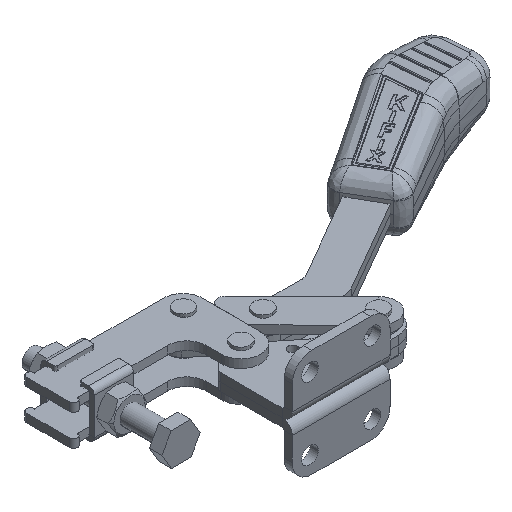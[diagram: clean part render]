
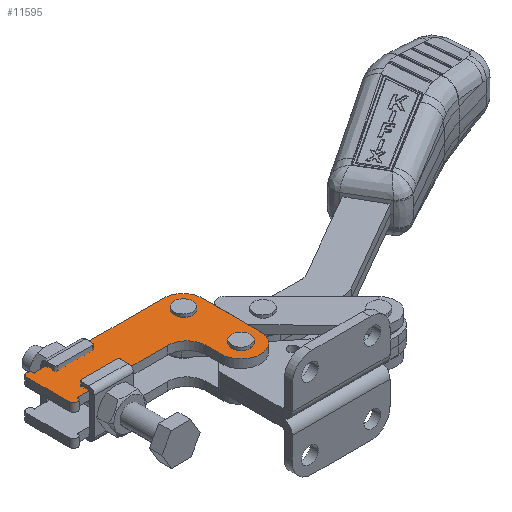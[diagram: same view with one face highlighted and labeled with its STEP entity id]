
A CAD part, isometric view. The second image highlights one B-rep face of the part: STEP entity #11595.
In plain terms, the highlighted planar face has unit normal (0, 0, 1) as drawn and (0, 0, -1) by its records, which use the part's own axes.
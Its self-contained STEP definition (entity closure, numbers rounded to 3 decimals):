
#431 = FACE_BOUND ( 'NONE', #6341, .T. ) ;
#475 = ORIENTED_EDGE ( 'NONE', *, *, #20551, .T. ) ;
#478 = VERTEX_POINT ( 'NONE', #8190 ) ;
#522 = VECTOR ( 'NONE', #9988, 1000. ) ;
#558 = VERTEX_POINT ( 'NONE', #4759 ) ;
#735 = EDGE_CURVE ( 'NONE', #7137, #9043, #4503, .T. ) ;
#763 = VERTEX_POINT ( 'NONE', #12551 ) ;
#1210 = EDGE_CURVE ( 'NONE', #7646, #20691, #19249, .T. ) ;
#1384 = DIRECTION ( 'NONE',  ( -1., 0., 0. ) ) ;
#1479 = DIRECTION ( 'NONE',  ( 0., -1., 0. ) ) ;
#1494 = VECTOR ( 'NONE', #1479, 1000. ) ;
#1611 = ORIENTED_EDGE ( 'NONE', *, *, #19924, .F. ) ;
#1957 = DIRECTION ( 'NONE',  ( 0., 0., 1. ) ) ;
#1998 = DIRECTION ( 'NONE',  ( 0., 0., -1. ) ) ;
#2265 = ORIENTED_EDGE ( 'NONE', *, *, #22525, .F. ) ;
#2313 = ORIENTED_EDGE ( 'NONE', *, *, #7842, .F. ) ;
#2348 = EDGE_CURVE ( 'NONE', #763, #7137, #14112, .T. ) ;
#2433 = LINE ( 'NONE', #19820, #7301 ) ;
#2842 = CARTESIAN_POINT ( 'NONE',  ( 70., -1., -4.25 ) ) ;
#2963 = EDGE_CURVE ( 'NONE', #12311, #12328, #2433, .T. ) ;
#3055 = CARTESIAN_POINT ( 'NONE',  ( 2., 11., -4.25 ) ) ;
#3484 = ORIENTED_EDGE ( 'NONE', *, *, #9494, .T. ) ;
#3581 = CARTESIAN_POINT ( 'NONE',  ( 0., -11., -4.25 ) ) ;
#3676 = CARTESIAN_POINT ( 'NONE',  ( 70., -0.7, -4.25 ) ) ;
#3915 = CARTESIAN_POINT ( 'NONE',  ( 70., 28.7, -4.25 ) ) ;
#3948 = AXIS2_PLACEMENT_3D ( 'NONE', #3055, #15740, #4880 ) ;
#4058 = LINE ( 'NONE', #21814, #13153 ) ;
#4069 = CARTESIAN_POINT ( 'NONE',  ( 66., 28.7, -4.25 ) ) ;
#4420 = CIRCLE ( 'NONE', #3948, 2. ) ;
#4503 = LINE ( 'NONE', #16007, #9363 ) ;
#4678 = DIRECTION ( 'NONE',  ( 1., 0., 0. ) ) ;
#4759 = CARTESIAN_POINT ( 'NONE',  ( 74., 28.7, -4.25 ) ) ;
#4836 = EDGE_CURVE ( 'NONE', #20691, #16788, #12933, .T. ) ;
#4873 = AXIS2_PLACEMENT_3D ( 'NONE', #3676, #16361, #5528 ) ;
#4880 = DIRECTION ( 'NONE',  ( -1., 0., 0. ) ) ;
#5218 = ORIENTED_EDGE ( 'NONE', *, *, #15078, .T. ) ;
#5504 = AXIS2_PLACEMENT_3D ( 'NONE', #8599, #21270, #10424 ) ;
#5528 = DIRECTION ( 'NONE',  ( 1., 0., 0. ) ) ;
#5755 = DIRECTION ( 'NONE',  ( 1., 0., 0. ) ) ;
#5815 = CARTESIAN_POINT ( 'NONE',  ( 66., -0.7, -4.25 ) ) ;
#6341 = EDGE_LOOP ( 'NONE', ( #475, #3484 ) ) ;
#6762 = EDGE_CURVE ( 'NONE', #14186, #12311, #12585, .T. ) ;
#7137 = VERTEX_POINT ( 'NONE', #17054 ) ;
#7281 = AXIS2_PLACEMENT_3D ( 'NONE', #2842, #15535, #4678 ) ;
#7301 = VECTOR ( 'NONE', #23453, 1000. ) ;
#7487 = DIRECTION ( 'NONE',  ( 0., 0., 1. ) ) ;
#7646 = VERTEX_POINT ( 'NONE', #19440 ) ;
#7842 = EDGE_CURVE ( 'NONE', #16788, #763, #4058, .T. ) ;
#8032 = AXIS2_PLACEMENT_3D ( 'NONE', #18325, #7487, #20160 ) ;
#8190 = CARTESIAN_POINT ( 'NONE',  ( 60., 28.7, -4.25 ) ) ;
#8205 = CARTESIAN_POINT ( 'NONE',  ( 74., -0.7, -4.25 ) ) ;
#8396 = ORIENTED_EDGE ( 'NONE', *, *, #735, .F. ) ;
#8407 = CIRCLE ( 'NONE', #19953, 10. ) ;
#8475 = AXIS2_PLACEMENT_3D ( 'NONE', #9553, #22207, #11371 ) ;
#8533 = ORIENTED_EDGE ( 'NONE', *, *, #17520, .T. ) ;
#8599 = CARTESIAN_POINT ( 'NONE',  ( 70., -0.7, -4.25 ) ) ;
#8986 = FACE_BOUND ( 'NONE', #19131, .T. ) ;
#9043 = VERTEX_POINT ( 'NONE', #13005 ) ;
#9257 = CARTESIAN_POINT ( 'NONE',  ( 2., 11., -4.25 ) ) ;
#9363 = VECTOR ( 'NONE', #14268, 1000. ) ;
#9494 = EDGE_CURVE ( 'NONE', #21977, #19427, #14696, .T. ) ;
#9553 = CARTESIAN_POINT ( 'NONE',  ( 70., 28.7, -4.25 ) ) ;
#9597 = VERTEX_POINT ( 'NONE', #4069 ) ;
#9986 = EDGE_LOOP ( 'NONE', ( #1611, #19220, #21371, #2265, #10840, #8396, #10913, #2313, #21312, #16910 ) ) ;
#9988 = DIRECTION ( 'NONE',  ( 0., -1., 0. ) ) ;
#10292 = CARTESIAN_POINT ( 'NONE',  ( 4., -11., -4.25 ) ) ;
#10424 = DIRECTION ( 'NONE',  ( 1., 0., 0. ) ) ;
#10840 = ORIENTED_EDGE ( 'NONE', *, *, #11632, .F. ) ;
#10913 = ORIENTED_EDGE ( 'NONE', *, *, #2348, .F. ) ;
#10977 = DIRECTION ( 'NONE',  ( 1., 0., 0. ) ) ;
#11204 = CARTESIAN_POINT ( 'NONE',  ( 60., 21., -4.25 ) ) ;
#11371 = DIRECTION ( 'NONE',  ( 1., 0., 0. ) ) ;
#11595 = ADVANCED_FACE ( 'NONE', ( #431, #8986, #18591 ), #20100, .T. ) ;
#11632 = EDGE_CURVE ( 'NONE', #9043, #478, #8407, .T. ) ;
#11653 = CARTESIAN_POINT ( 'NONE',  ( 50., 11., -4.25 ) ) ;
#11734 = CARTESIAN_POINT ( 'NONE',  ( 4., 11., -4.25 ) ) ;
#12285 = DIRECTION ( 'NONE',  ( 0., 0., -1. ) ) ;
#12311 = VERTEX_POINT ( 'NONE', #11653 ) ;
#12328 = VERTEX_POINT ( 'NONE', #11734 ) ;
#12551 = CARTESIAN_POINT ( 'NONE',  ( 70., -11., -4.25 ) ) ;
#12585 = CIRCLE ( 'NONE', #17161, 10. ) ;
#12854 = CARTESIAN_POINT ( 'NONE',  ( 2., -11., -4.25 ) ) ;
#12933 = CIRCLE ( 'NONE', #20360, 2. ) ;
#13005 = CARTESIAN_POINT ( 'NONE',  ( 80., 28.7, -4.25 ) ) ;
#13094 = CIRCLE ( 'NONE', #8032, 4. ) ;
#13153 = VECTOR ( 'NONE', #10977, 1000. ) ;
#14112 = CIRCLE ( 'NONE', #7281, 10. ) ;
#14186 = VERTEX_POINT ( 'NONE', #11204 ) ;
#14268 = DIRECTION ( 'NONE',  ( 0., 1., 0. ) ) ;
#14664 = DIRECTION ( 'NONE',  ( 1., 0., 0. ) ) ;
#14696 = CIRCLE ( 'NONE', #4873, 4. ) ;
#14705 = DIRECTION ( 'NONE',  ( -1., 0., 0. ) ) ;
#15078 = EDGE_CURVE ( 'NONE', #558, #9597, #18534, .T. ) ;
#15535 = DIRECTION ( 'NONE',  ( 0., 0., 1. ) ) ;
#15740 = DIRECTION ( 'NONE',  ( 0., 0., 1. ) ) ;
#16007 = CARTESIAN_POINT ( 'NONE',  ( 80., -1., -4.25 ) ) ;
#16318 = CIRCLE ( 'NONE', #5504, 4. ) ;
#16361 = DIRECTION ( 'NONE',  ( 0., 0., 1. ) ) ;
#16599 = DIRECTION ( 'NONE',  ( 0., 0., 1. ) ) ;
#16788 = VERTEX_POINT ( 'NONE', #10292 ) ;
#16910 = ORIENTED_EDGE ( 'NONE', *, *, #1210, .F. ) ;
#17054 = CARTESIAN_POINT ( 'NONE',  ( 80., -1., -4.25 ) ) ;
#17161 = AXIS2_PLACEMENT_3D ( 'NONE', #23101, #12285, #1384 ) ;
#17520 = EDGE_CURVE ( 'NONE', #9597, #558, #13094, .T. ) ;
#18325 = CARTESIAN_POINT ( 'NONE',  ( 70., 28.7, -4.25 ) ) ;
#18534 = CIRCLE ( 'NONE', #8475, 4. ) ;
#18591 = FACE_OUTER_BOUND ( 'NONE', #9986, .T. ) ;
#18717 = AXIS2_PLACEMENT_3D ( 'NONE', #9257, #1998, #14705 ) ;
#19131 = EDGE_LOOP ( 'NONE', ( #5218, #8533 ) ) ;
#19220 = ORIENTED_EDGE ( 'NONE', *, *, #2963, .F. ) ;
#19249 = LINE ( 'NONE', #20846, #522 ) ;
#19427 = VERTEX_POINT ( 'NONE', #8205 ) ;
#19440 = CARTESIAN_POINT ( 'NONE',  ( 0., 11., -4.25 ) ) ;
#19671 = LINE ( 'NONE', #23196, #1494 ) ;
#19820 = CARTESIAN_POINT ( 'NONE',  ( 50., 11., -4.25 ) ) ;
#19924 = EDGE_CURVE ( 'NONE', #12328, #7646, #4420, .T. ) ;
#19953 = AXIS2_PLACEMENT_3D ( 'NONE', #3915, #16599, #5755 ) ;
#20100 = PLANE ( 'NONE',  #18717 ) ;
#20160 = DIRECTION ( 'NONE',  ( 1., 0., 0. ) ) ;
#20360 = AXIS2_PLACEMENT_3D ( 'NONE', #12854, #1957, #14664 ) ;
#20551 = EDGE_CURVE ( 'NONE', #19427, #21977, #16318, .T. ) ;
#20691 = VERTEX_POINT ( 'NONE', #3581 ) ;
#20846 = CARTESIAN_POINT ( 'NONE',  ( 0., 11., -4.25 ) ) ;
#21270 = DIRECTION ( 'NONE',  ( 0., 0., 1. ) ) ;
#21312 = ORIENTED_EDGE ( 'NONE', *, *, #4836, .F. ) ;
#21371 = ORIENTED_EDGE ( 'NONE', *, *, #6762, .F. ) ;
#21814 = CARTESIAN_POINT ( 'NONE',  ( 4., -11., -4.25 ) ) ;
#21977 = VERTEX_POINT ( 'NONE', #5815 ) ;
#22207 = DIRECTION ( 'NONE',  ( 0., 0., 1. ) ) ;
#22525 = EDGE_CURVE ( 'NONE', #478, #14186, #19671, .T. ) ;
#23101 = CARTESIAN_POINT ( 'NONE',  ( 50., 21., -4.25 ) ) ;
#23196 = CARTESIAN_POINT ( 'NONE',  ( 60., 28.7, -4.25 ) ) ;
#23453 = DIRECTION ( 'NONE',  ( -1., 0., 0. ) ) ;
